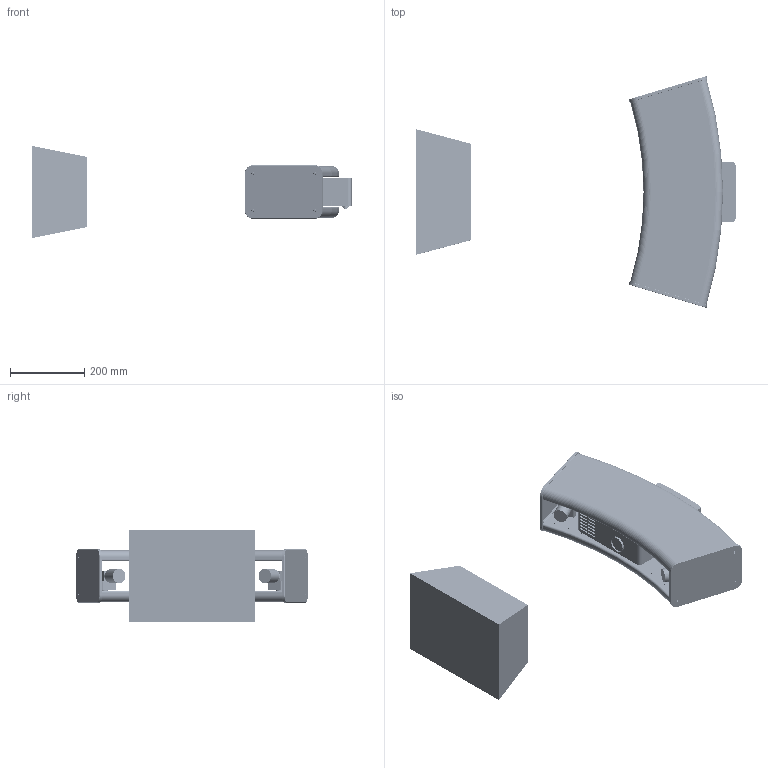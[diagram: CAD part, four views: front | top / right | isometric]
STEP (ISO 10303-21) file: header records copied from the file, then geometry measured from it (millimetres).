
FILE_DESCRIPTION((''),'2;1');
FILE_NAME('0000433482_ASM','2021-12-09T12:00:30',('pdmservice'),(''),'CREO PARAMETRIC BY PTC INC, 2018420','CREO PARAMETRIC BY PTC INC, 2018420','');
FILE_SCHEMA(('AUTOMOTIVE_DESIGN { 1 0 10303 214 1 1 1 1 }'));
Products named in the file (35): 0000427157_PRT; 0000433620_PRT; 0000427203_PRT; 0000427200_PRT; 0000427202_PRT; 0000427204_ASM; 0000427167_PRT; 0000427170_PRT; 0000427172_PRT; 0000427174_PRT; 0000427178_PRT; 0000427180_PRT; 0000427151_PRT; 0000427153_PRT; 0000427861_PRT; 0000427867_PRT; 0000427270_PRT; 0000427237_PRT; 0000427951_PRT; 0000427888_PRT; 0466016_PRT; 0000145117_PRT; 0000135227_PRT; 0000194705_PRT; 0000013120_PRT; 0000026021_PRT; 0000012527_PRT; 0000013114_PRT; 0000427186_PRT; 0000013143_PRT; 0000024246_PRT; 0000024291_PRT; 0000013146_PRT; 0000433293_PRT; 0000433482_ASM
Assembly tree (85 placements, depth 3):
  0000433482_ASM
    0000427157_PRT
    0000433620_PRT
    0000427204_ASM
      0000427203_PRT
      0000427200_PRT  x2
      0000427202_PRT
    0000427167_PRT
    0000427170_PRT
    0000427172_PRT
    0000427174_PRT
    0000427178_PRT  x2
    0000427180_PRT  x2
    0000427151_PRT  x2
    0000427153_PRT
    0000427861_PRT  x2
    0000427867_PRT
    0000427270_PRT
    0000427237_PRT
    0000427951_PRT  x2
    0000427888_PRT  x4
    0466016_PRT  x4
    0000145117_PRT  x4
    0000135227_PRT  x2
    0000194705_PRT  x2
    0000013120_PRT  x8
    0000026021_PRT  x6
    0000012527_PRT  x6
    0000013114_PRT  x6
    0000427186_PRT  x5
    0000013143_PRT  x4
    0000024246_PRT  x4
    0000024291_PRT  x2
    0000013146_PRT  x2
    0000433293_PRT
Bounding box: 866.95 x 626.21 x 250 mm (x, y, z)
Volume: 14812169.6 mm3; surface area: 2011102.6 mm2
Topology: 84 solids, 144 shells, 7273 faces, 18536 edges, 11725 vertices
Faces by surface type: plane 3002, cylinder 2427, cone 784, torus 418, bspline 342, extrusion 236, sphere 60, revolution 4
Entity records: 206648 total; most frequent: CARTESIAN_POINT 44093, ORIENTED_EDGE 19592, DIRECTION 19585, PRESENTATION_STYLE_ASSIGNMENT 11174, EDGE_CURVE 9874, STYLED_ITEM 9006, CURVE_STYLE 8719, AXIS2_PLACEMENT_3D 7053
